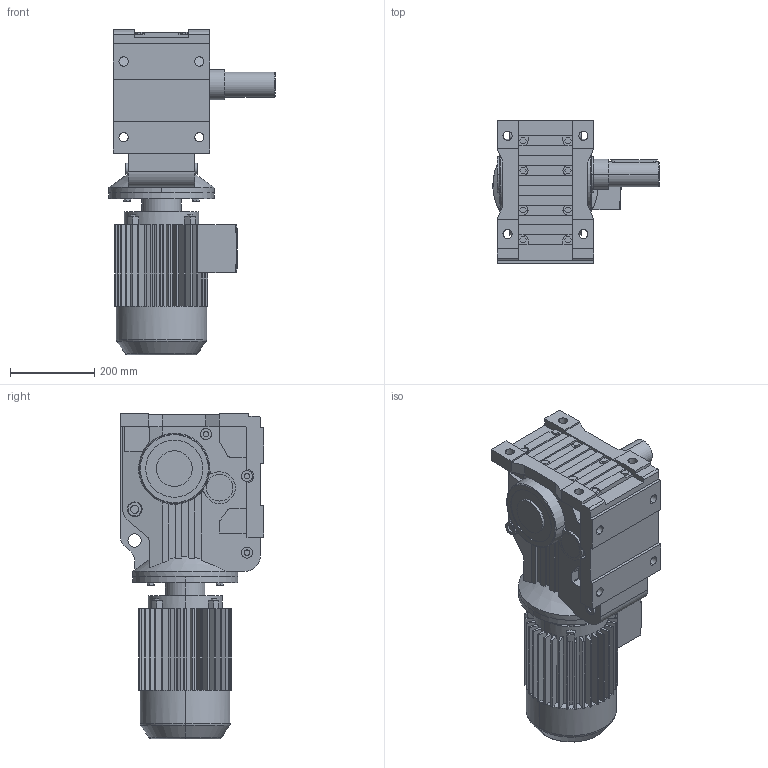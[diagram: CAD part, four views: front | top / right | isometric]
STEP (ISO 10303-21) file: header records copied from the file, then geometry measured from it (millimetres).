
FILE_DESCRIPTION(('Open CASCADE Model'),'2;1');
FILE_NAME('Open CASCADE Shape Model','2021-06-03T16:07:43',('Author'),( 'Open CASCADE'),'Open CASCADE STEP processor 6.3','Open CASCADE 6.3' ,'Unknown');
FILE_SCHEMA(('AUTOMOTIVE_DESIGN_CC2 { 1 2 10303 214 -1 1 5 4 }'));
Length unit declared in the file: millimetre
Products named in the file (4): 1_K87DV132S-A; K37‵157_87.step; 萇儂_250-DV132S-385-465-221-179.step; す瑩妗陑粣K_87.step
Assembly tree (3 placements, depth 2):
  1_K87DV132S-A
    K37‵157_87.step
    萇儂_250-DV132S-385-465-221-179.step
    す瑩妗陑粣K_87.step
Bounding box: 395 x 340 x 774 mm (x, y, z)
Volume: 33648317 mm3; surface area: 1509046.1 mm2
Topology: 3 solids, 3 shells, 837 faces, 2208 edges, 1434 vertices
Faces by surface type: plane 584, cylinder 231, cone 14, torus 8
Entity records: 58036 total; most frequent: CARTESIAN_POINT 16081, DIRECTION 7229, ORIENTED_EDGE 4412, PCURVE 4412, DEFINITIONAL_REPRESENTATION 4412, LINE 3941, VECTOR 3941, EDGE_CURVE 2206
